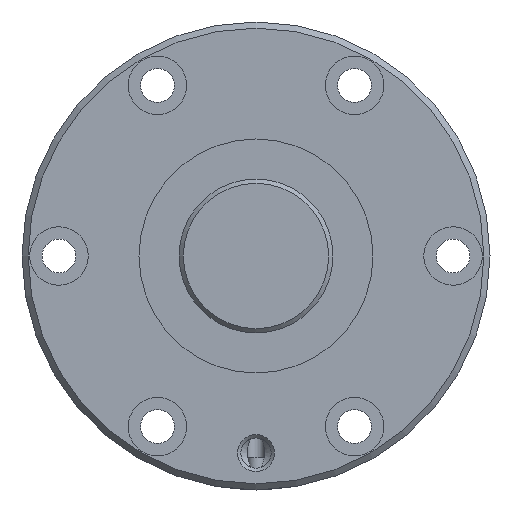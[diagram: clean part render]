
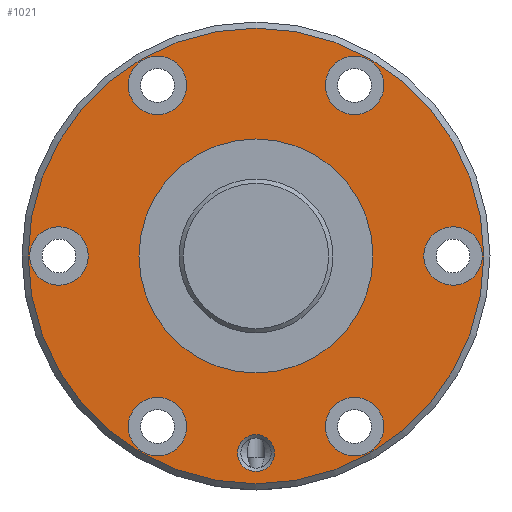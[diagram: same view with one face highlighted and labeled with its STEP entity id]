
A CAD part, left-side view. The second image highlights one B-rep face of the part: STEP entity #1021.
In plain terms, the highlighted planar face has unit normal (-1, 0, 0).
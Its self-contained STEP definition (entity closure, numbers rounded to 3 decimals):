
#162=ORIENTED_EDGE('',*,*,#385,.T.);
#163=ORIENTED_EDGE('',*,*,#386,.T.);
#164=ORIENTED_EDGE('',*,*,#387,.T.);
#165=ORIENTED_EDGE('',*,*,#388,.T.);
#166=ORIENTED_EDGE('',*,*,#389,.T.);
#167=ORIENTED_EDGE('',*,*,#390,.T.);
#168=ORIENTED_EDGE('',*,*,#391,.T.);
#169=ORIENTED_EDGE('',*,*,#392,.T.);
#170=ORIENTED_EDGE('',*,*,#384,.F.);
#384=EDGE_CURVE('',#499,#499,#593,.T.);
#385=EDGE_CURVE('',#500,#500,#594,.T.);
#386=EDGE_CURVE('',#501,#501,#595,.F.);
#387=EDGE_CURVE('',#502,#502,#596,.T.);
#388=EDGE_CURVE('',#503,#503,#597,.T.);
#389=EDGE_CURVE('',#504,#504,#598,.T.);
#390=EDGE_CURVE('',#505,#505,#599,.T.);
#391=EDGE_CURVE('',#506,#506,#600,.T.);
#392=EDGE_CURVE('',#507,#507,#601,.T.);
#499=VERTEX_POINT('',#1708);
#500=VERTEX_POINT('',#1711);
#501=VERTEX_POINT('',#1713);
#502=VERTEX_POINT('',#1715);
#503=VERTEX_POINT('',#1717);
#504=VERTEX_POINT('',#1719);
#505=VERTEX_POINT('',#1721);
#506=VERTEX_POINT('',#1723);
#507=VERTEX_POINT('',#1725);
#593=CIRCLE('',#1136,37.);
#594=CIRCLE('',#1138,19.);
#595=CIRCLE('',#1139,4.75);
#596=CIRCLE('',#1140,3.);
#597=CIRCLE('',#1141,4.75);
#598=CIRCLE('',#1142,4.75);
#599=CIRCLE('',#1143,4.75);
#600=CIRCLE('',#1144,4.75);
#601=CIRCLE('',#1145,4.75);
#682=EDGE_LOOP('',(#162));
#683=EDGE_LOOP('',(#163));
#684=EDGE_LOOP('',(#164));
#685=EDGE_LOOP('',(#165));
#686=EDGE_LOOP('',(#166));
#687=EDGE_LOOP('',(#167));
#688=EDGE_LOOP('',(#168));
#689=EDGE_LOOP('',(#169));
#690=EDGE_LOOP('',(#170));
#842=FACE_BOUND('',#682,.T.);
#843=FACE_BOUND('',#683,.T.);
#844=FACE_BOUND('',#684,.T.);
#845=FACE_BOUND('',#685,.T.);
#846=FACE_BOUND('',#686,.T.);
#847=FACE_BOUND('',#687,.T.);
#848=FACE_BOUND('',#688,.T.);
#849=FACE_BOUND('',#689,.T.);
#850=FACE_BOUND('',#690,.T.);
#984=PLANE('',#1137);
#1021=ADVANCED_FACE('',(#842,#843,#844,#845,#846,#847,#848,#849,#850),#984,
 .T.);
#1136=AXIS2_PLACEMENT_3D('',#1707,#1322,#1323);
#1137=AXIS2_PLACEMENT_3D('',#1709,#1324,#1325);
#1138=AXIS2_PLACEMENT_3D('',#1710,#1326,#1327);
#1139=AXIS2_PLACEMENT_3D('',#1712,#1328,#1329);
#1140=AXIS2_PLACEMENT_3D('',#1714,#1330,#1331);
#1141=AXIS2_PLACEMENT_3D('',#1716,#1332,#1333);
#1142=AXIS2_PLACEMENT_3D('',#1718,#1334,#1335);
#1143=AXIS2_PLACEMENT_3D('',#1720,#1336,#1337);
#1144=AXIS2_PLACEMENT_3D('',#1722,#1338,#1339);
#1145=AXIS2_PLACEMENT_3D('',#1724,#1340,#1341);
#1322=DIRECTION('',(1.,0.,0.));
#1323=DIRECTION('',(0.,0.,-1.));
#1324=DIRECTION('',(-1.,0.,0.));
#1325=DIRECTION('',(0.,0.,1.));
#1326=DIRECTION('',(1.,0.,0.));
#1327=DIRECTION('',(0.,0.,-1.));
#1328=DIRECTION('',(-1.,0.,0.));
#1329=DIRECTION('',(0.,0.,1.));
#1330=DIRECTION('',(1.,0.,0.));
#1331=DIRECTION('',(0.,0.,-1.));
#1332=DIRECTION('',(1.,0.,0.));
#1333=DIRECTION('',(0.,0.,-1.));
#1334=DIRECTION('',(1.,0.,0.));
#1335=DIRECTION('',(0.,0.,-1.));
#1336=DIRECTION('',(1.,0.,0.));
#1337=DIRECTION('',(0.,0.,-1.));
#1338=DIRECTION('',(1.,0.,0.));
#1339=DIRECTION('',(0.,0.,-1.));
#1340=DIRECTION('',(1.,0.,0.));
#1341=DIRECTION('',(0.,0.,-1.));
#1707=CARTESIAN_POINT('',(0.,0.,0.));
#1708=CARTESIAN_POINT('',(0.,0.,-37.));
#1709=CARTESIAN_POINT('',(0.,37.,0.));
#1710=CARTESIAN_POINT('',(0.,0.,0.));
#1711=CARTESIAN_POINT('',(0.,0.,-19.));
#1712=CARTESIAN_POINT('',(0.,32.,0.));
#1713=CARTESIAN_POINT('',(0.,32.,4.75));
#1714=CARTESIAN_POINT('',(0.,0.,-32.));
#1715=CARTESIAN_POINT('',(0.,0.,-35.));
#1716=CARTESIAN_POINT('',(0.,-32.,0.));
#1717=CARTESIAN_POINT('',(0.,-32.,-4.75));
#1718=CARTESIAN_POINT('',(0.,16.,27.713));
#1719=CARTESIAN_POINT('',(0.,16.,22.963));
#1720=CARTESIAN_POINT('',(0.,-16.,-27.713));
#1721=CARTESIAN_POINT('',(0.,-16.,-32.463));
#1722=CARTESIAN_POINT('',(0.,-16.,27.713));
#1723=CARTESIAN_POINT('',(0.,-16.,22.963));
#1724=CARTESIAN_POINT('',(0.,16.,-27.713));
#1725=CARTESIAN_POINT('',(0.,16.,-32.463));
